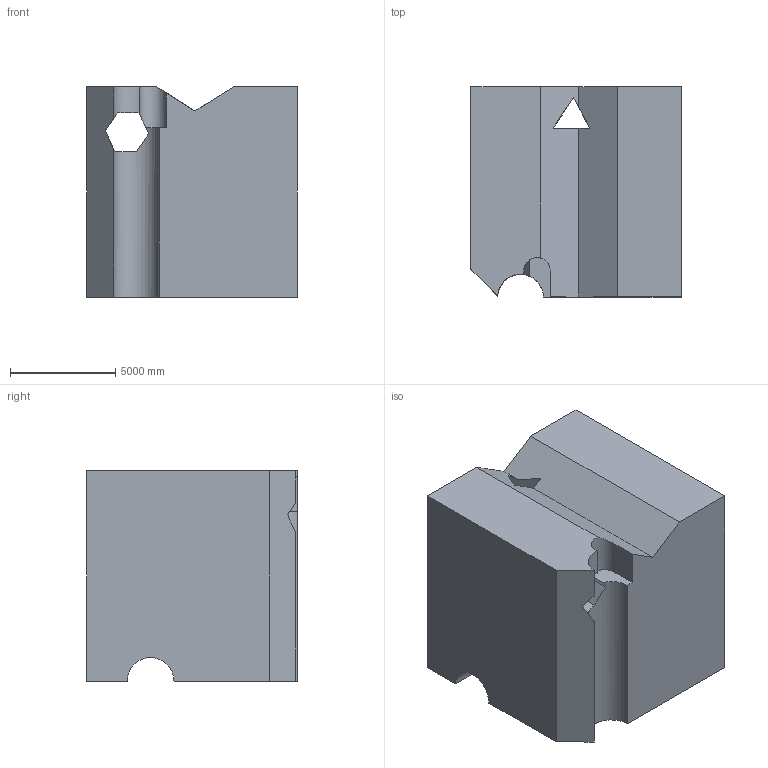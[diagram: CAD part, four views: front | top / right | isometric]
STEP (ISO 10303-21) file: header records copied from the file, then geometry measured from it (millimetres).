
FILE_DESCRIPTION (( 'STEP AP203' ), '1' );
FILE_NAME ('1752.STEP', '2022-08-26T13:22:48', ( 'user' ), ( '' ), 'SwSTEP 2.0', 'SolidWorks 2021', '' );
FILE_SCHEMA (( 'CONFIG_CONTROL_DESIGN' ));
Length unit declared in the file: centimetre
Products named in the file (1): 1752
Bounding box: 10000 x 10000 x 10000 mm (x, y, z)
Volume: 873569350036.4 mm3; surface area: 741493030.3 mm2
Topology: 1 solids, 1 shells, 30 faces, 90 edges, 60 vertices
Faces by surface type: plane 24, cylinder 6
Entity records: 1092 total; most frequent: CARTESIAN_POINT 208, ORIENTED_EDGE 180, DIRECTION 156, EDGE_CURVE 90, LINE 68, VECTOR 68, VERTEX_POINT 60, AXIS2_PLACEMENT_3D 44
